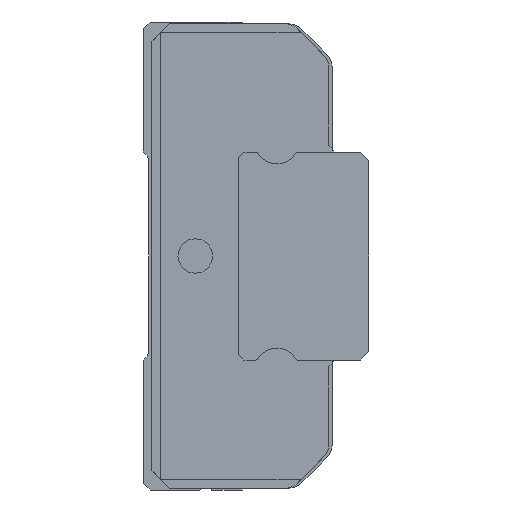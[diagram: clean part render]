
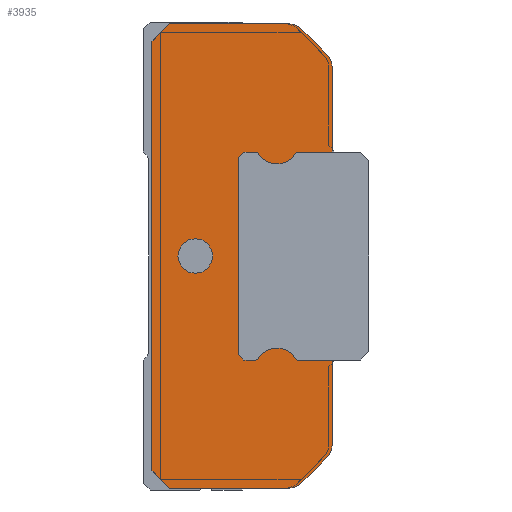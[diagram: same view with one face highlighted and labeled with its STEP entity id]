
A CAD part, left-side view. The second image highlights one B-rep face of the part: STEP entity #3935.
In plain terms, the highlighted planar face has unit normal (-1, 0, 0).
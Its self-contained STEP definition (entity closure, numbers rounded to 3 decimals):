
#223=CIRCLE('',#4396,1.);
#224=CIRCLE('',#4397,1.);
#225=CIRCLE('',#4398,1.);
#226=CIRCLE('',#4399,1.);
#227=CIRCLE('',#4400,1.);
#228=CIRCLE('',#4401,0.15);
#229=CIRCLE('',#4402,1.25);
#230=CIRCLE('',#4403,0.15);
#231=CIRCLE('',#4404,0.15);
#232=CIRCLE('',#4405,1.25);
#233=CIRCLE('',#4406,0.15);
#950=ORIENTED_EDGE('',*,*,#1687,.T.);
#951=ORIENTED_EDGE('',*,*,#1688,.T.);
#952=ORIENTED_EDGE('',*,*,#1651,.F.);
#953=ORIENTED_EDGE('',*,*,#1689,.F.);
#954=ORIENTED_EDGE('',*,*,#1690,.F.);
#955=ORIENTED_EDGE('',*,*,#1691,.F.);
#956=ORIENTED_EDGE('',*,*,#1565,.F.);
#957=ORIENTED_EDGE('',*,*,#1582,.F.);
#958=ORIENTED_EDGE('',*,*,#1640,.F.);
#959=ORIENTED_EDGE('',*,*,#1630,.F.);
#960=ORIENTED_EDGE('',*,*,#1638,.F.);
#961=ORIENTED_EDGE('',*,*,#1692,.F.);
#962=ORIENTED_EDGE('',*,*,#1693,.F.);
#963=ORIENTED_EDGE('',*,*,#1694,.F.);
#964=ORIENTED_EDGE('',*,*,#1653,.F.);
#965=ORIENTED_EDGE('',*,*,#1695,.T.);
#966=ORIENTED_EDGE('',*,*,#1696,.T.);
#967=ORIENTED_EDGE('',*,*,#1697,.F.);
#968=ORIENTED_EDGE('',*,*,#1698,.T.);
#969=ORIENTED_EDGE('',*,*,#1699,.T.);
#970=ORIENTED_EDGE('',*,*,#1700,.T.);
#971=ORIENTED_EDGE('',*,*,#1701,.T.);
#972=ORIENTED_EDGE('',*,*,#1702,.T.);
#973=ORIENTED_EDGE('',*,*,#1703,.T.);
#974=ORIENTED_EDGE('',*,*,#1704,.T.);
#975=ORIENTED_EDGE('',*,*,#1705,.F.);
#976=ORIENTED_EDGE('',*,*,#1706,.T.);
#1565=EDGE_CURVE('',#2035,#2036,#2255,.T.);
#1582=EDGE_CURVE('',#2047,#2035,#2270,.T.);
#1630=EDGE_CURVE('',#2087,#2088,#2316,.T.);
#1638=EDGE_CURVE('',#2092,#2087,#2324,.T.);
#1640=EDGE_CURVE('',#2088,#2047,#2326,.T.);
#1651=EDGE_CURVE('',#2097,#2094,#2337,.T.);
#1653=EDGE_CURVE('',#2098,#2100,#2339,.T.);
#1687=EDGE_CURVE('',#2130,#2130,#223,.T.);
#1688=EDGE_CURVE('',#2131,#2094,#2362,.T.);
#1689=EDGE_CURVE('',#2132,#2097,#224,.T.);
#1690=EDGE_CURVE('',#2133,#2132,#2363,.T.);
#1691=EDGE_CURVE('',#2036,#2133,#225,.T.);
#1692=EDGE_CURVE('',#2134,#2092,#226,.T.);
#1693=EDGE_CURVE('',#2135,#2134,#2364,.T.);
#1694=EDGE_CURVE('',#2100,#2135,#227,.T.);
#1695=EDGE_CURVE('',#2098,#2136,#2365,.T.);
#1696=EDGE_CURVE('',#2136,#2137,#228,.T.);
#1697=EDGE_CURVE('',#2138,#2137,#229,.T.);
#1698=EDGE_CURVE('',#2138,#2139,#230,.T.);
#1699=EDGE_CURVE('',#2139,#2140,#2366,.T.);
#1700=EDGE_CURVE('',#2140,#2141,#2367,.T.);
#1701=EDGE_CURVE('',#2141,#2142,#2368,.T.);
#1702=EDGE_CURVE('',#2142,#2143,#2369,.T.);
#1703=EDGE_CURVE('',#2143,#2144,#2370,.T.);
#1704=EDGE_CURVE('',#2144,#2145,#231,.T.);
#1705=EDGE_CURVE('',#2146,#2145,#232,.T.);
#1706=EDGE_CURVE('',#2146,#2131,#233,.T.);
#2035=VERTEX_POINT('',#6292);
#2036=VERTEX_POINT('',#6294);
#2047=VERTEX_POINT('',#6325);
#2087=VERTEX_POINT('',#6423);
#2088=VERTEX_POINT('',#6425);
#2092=VERTEX_POINT('',#6438);
#2094=VERTEX_POINT('',#6455);
#2097=VERTEX_POINT('',#6461);
#2098=VERTEX_POINT('',#6465);
#2100=VERTEX_POINT('',#6468);
#2130=VERTEX_POINT('',#6536);
#2131=VERTEX_POINT('',#6538);
#2132=VERTEX_POINT('',#6540);
#2133=VERTEX_POINT('',#6542);
#2134=VERTEX_POINT('',#6545);
#2135=VERTEX_POINT('',#6547);
#2136=VERTEX_POINT('',#6550);
#2137=VERTEX_POINT('',#6552);
#2138=VERTEX_POINT('',#6554);
#2139=VERTEX_POINT('',#6556);
#2140=VERTEX_POINT('',#6558);
#2141=VERTEX_POINT('',#6560);
#2142=VERTEX_POINT('',#6562);
#2143=VERTEX_POINT('',#6564);
#2144=VERTEX_POINT('',#6566);
#2145=VERTEX_POINT('',#6568);
#2146=VERTEX_POINT('',#6570);
#2255=LINE('',#6293,#2513);
#2270=LINE('',#6326,#2528);
#2316=LINE('',#6424,#2574);
#2324=LINE('',#6439,#2582);
#2326=LINE('',#6442,#2584);
#2337=LINE('',#6462,#2595);
#2339=LINE('',#6467,#2597);
#2362=LINE('',#6537,#2620);
#2363=LINE('',#6541,#2621);
#2364=LINE('',#6546,#2622);
#2365=LINE('',#6549,#2623);
#2366=LINE('',#6557,#2624);
#2367=LINE('',#6559,#2625);
#2368=LINE('',#6561,#2626);
#2369=LINE('',#6563,#2627);
#2370=LINE('',#6565,#2628);
#2513=VECTOR('',#5192,1000.);
#2528=VECTOR('',#5219,1000.);
#2574=VECTOR('',#5289,1000.);
#2582=VECTOR('',#5301,1000.);
#2584=VECTOR('',#5305,1000.);
#2595=VECTOR('',#5324,1000.);
#2597=VECTOR('',#5328,1000.);
#2620=VECTOR('',#5383,1000.);
#2621=VECTOR('',#5386,1000.);
#2622=VECTOR('',#5391,1000.);
#2623=VECTOR('',#5394,1000.);
#2624=VECTOR('',#5401,1000.);
#2625=VECTOR('',#5402,1000.);
#2626=VECTOR('',#5403,1000.);
#2627=VECTOR('',#5404,1000.);
#2628=VECTOR('',#5405,1000.);
#3091=EDGE_LOOP('',(#950));
#3092=EDGE_LOOP('',(#951,#952,#953,#954,#955,#956,#957,#958,#959,#960,#961,
#962,#963,#964,#965,#966,#967,#968,#969,#970,#971,#972,#973,#974,#975,#976));
#3547=FACE_BOUND('',#3091,.T.);
#3548=FACE_BOUND('',#3092,.T.);
#3716=PLANE('',#4395);
#3935=ADVANCED_FACE('',(#3547,#3548),#3716,.F.);
#4395=AXIS2_PLACEMENT_3D('',#6534,#5379,#5380);
#4396=AXIS2_PLACEMENT_3D('',#6535,#5381,#5382);
#4397=AXIS2_PLACEMENT_3D('',#6539,#5384,#5385);
#4398=AXIS2_PLACEMENT_3D('',#6543,#5387,#5388);
#4399=AXIS2_PLACEMENT_3D('',#6544,#5389,#5390);
#4400=AXIS2_PLACEMENT_3D('',#6548,#5392,#5393);
#4401=AXIS2_PLACEMENT_3D('',#6551,#5395,#5396);
#4402=AXIS2_PLACEMENT_3D('',#6553,#5397,#5398);
#4403=AXIS2_PLACEMENT_3D('',#6555,#5399,#5400);
#4404=AXIS2_PLACEMENT_3D('',#6567,#5406,#5407);
#4405=AXIS2_PLACEMENT_3D('',#6569,#5408,#5409);
#4406=AXIS2_PLACEMENT_3D('',#6571,#5410,#5411);
#5192=DIRECTION('',(0.,-1.,0.));
#5219=DIRECTION('',(0.,-0.707,0.707));
#5289=DIRECTION('',(0.,0.707,0.707));
#5301=DIRECTION('',(0.,1.,0.));
#5305=DIRECTION('',(0.,0.,1.));
#5324=DIRECTION('',(0.,0.,-1.));
#5328=DIRECTION('',(0.,0.,-1.));
#5379=DIRECTION('',(1.,0.,0.));
#5380=DIRECTION('',(0.,0.,-1.));
#5381=DIRECTION('',(1.,0.,0.));
#5382=DIRECTION('',(0.,0.,-1.));
#5383=DIRECTION('',(0.,-1.,0.));
#5384=DIRECTION('',(1.,0.,0.));
#5385=DIRECTION('',(0.,0.,-1.));
#5386=DIRECTION('',(0.,-0.707,-0.707));
#5387=DIRECTION('',(1.,0.,0.));
#5388=DIRECTION('',(0.,0.,-1.));
#5389=DIRECTION('',(1.,0.,0.));
#5390=DIRECTION('',(0.,0.,-1.));
#5391=DIRECTION('',(0.,0.707,-0.707));
#5392=DIRECTION('',(1.,0.,0.));
#5393=DIRECTION('',(0.,0.,-1.));
#5394=DIRECTION('',(0.,1.,0.));
#5395=DIRECTION('',(1.,0.,0.));
#5396=DIRECTION('',(0.,0.,-1.));
#5397=DIRECTION('',(1.,0.,0.));
#5398=DIRECTION('',(0.,0.,-1.));
#5399=DIRECTION('',(1.,0.,0.));
#5400=DIRECTION('',(0.,0.,-1.));
#5401=DIRECTION('',(0.,1.,0.));
#5402=DIRECTION('',(0.,0.707,0.707));
#5403=DIRECTION('',(0.,0.,1.));
#5404=DIRECTION('',(0.,-0.707,0.707));
#5405=DIRECTION('',(0.,-1.,0.));
#5406=DIRECTION('',(1.,0.,0.));
#5407=DIRECTION('',(0.,0.,-1.));
#5408=DIRECTION('',(1.,0.,0.));
#5409=DIRECTION('',(0.,0.,-1.));
#5410=DIRECTION('',(1.,0.,0.));
#5411=DIRECTION('',(0.,0.,-1.));
#6292=CARTESIAN_POINT('',(-12.5,9.5,13.4));
#6293=CARTESIAN_POINT('',(-12.5,9.5,13.4));
#6294=CARTESIAN_POINT('',(-12.5,2.614,13.4));
#6325=CARTESIAN_POINT('',(-12.5,10.5,12.4));
#6326=CARTESIAN_POINT('',(-12.5,10.5,12.4));
#6423=CARTESIAN_POINT('',(-12.5,9.5,-13.4));
#6424=CARTESIAN_POINT('',(-12.5,9.5,-13.4));
#6425=CARTESIAN_POINT('',(-12.5,10.5,-12.4));
#6438=CARTESIAN_POINT('',(-12.5,2.614,-13.4));
#6439=CARTESIAN_POINT('',(-12.5,2.614,-13.4));
#6442=CARTESIAN_POINT('',(-12.5,10.5,-12.4));
#6455=CARTESIAN_POINT('',(-12.5,0.1,6.));
#6461=CARTESIAN_POINT('',(-12.5,0.1,10.886));
#6462=CARTESIAN_POINT('',(-12.5,0.1,10.886));
#6465=CARTESIAN_POINT('',(-12.5,0.1,-6.));
#6467=CARTESIAN_POINT('',(-12.5,0.1,10.886));
#6468=CARTESIAN_POINT('',(-12.5,0.1,-10.886));
#6534=CARTESIAN_POINT('',(-12.5,2.614,12.4));
#6535=CARTESIAN_POINT('',(-12.5,8.,0.));
#6536=CARTESIAN_POINT('',(-12.5,8.,-1.));
#6537=CARTESIAN_POINT('',(-12.5,2.088,6.));
#6538=CARTESIAN_POINT('',(-12.5,2.088,6.));
#6539=CARTESIAN_POINT('',(-12.5,1.1,10.886));
#6540=CARTESIAN_POINT('',(-12.5,0.393,11.593));
#6541=CARTESIAN_POINT('',(-12.5,1.907,13.107));
#6542=CARTESIAN_POINT('',(-12.5,1.907,13.107));
#6543=CARTESIAN_POINT('',(-12.5,2.614,12.4));
#6544=CARTESIAN_POINT('',(-12.5,2.614,-12.4));
#6545=CARTESIAN_POINT('',(-12.5,1.907,-13.107));
#6546=CARTESIAN_POINT('',(-12.5,0.393,-11.593));
#6547=CARTESIAN_POINT('',(-12.5,0.393,-11.593));
#6548=CARTESIAN_POINT('',(-12.5,1.1,-10.886));
#6549=CARTESIAN_POINT('',(-12.5,-1.5,-6.));
#6550=CARTESIAN_POINT('',(-12.5,2.088,-6.));
#6551=CARTESIAN_POINT('',(-12.5,2.088,-5.85));
#6552=CARTESIAN_POINT('',(-12.5,2.217,-5.925));
#6553=CARTESIAN_POINT('',(-12.5,3.3,-6.55));
#6554=CARTESIAN_POINT('',(-12.5,4.383,-5.925));
#6555=CARTESIAN_POINT('',(-12.5,4.512,-5.85));
#6556=CARTESIAN_POINT('',(-12.5,4.512,-6.));
#6557=CARTESIAN_POINT('',(-12.5,4.512,-6.));
#6558=CARTESIAN_POINT('',(-12.5,5.2,-6.));
#6559=CARTESIAN_POINT('',(-12.5,5.2,-6.));
#6560=CARTESIAN_POINT('',(-12.5,5.5,-5.7));
#6561=CARTESIAN_POINT('',(-12.5,5.5,-5.7));
#6562=CARTESIAN_POINT('',(-12.5,5.5,5.7));
#6563=CARTESIAN_POINT('',(-12.5,5.5,5.7));
#6564=CARTESIAN_POINT('',(-12.5,5.2,6.));
#6565=CARTESIAN_POINT('',(-12.5,5.2,6.));
#6566=CARTESIAN_POINT('',(-12.5,4.512,6.));
#6567=CARTESIAN_POINT('',(-12.5,4.512,5.85));
#6568=CARTESIAN_POINT('',(-12.5,4.383,5.925));
#6569=CARTESIAN_POINT('',(-12.5,3.3,6.55));
#6570=CARTESIAN_POINT('',(-12.5,2.217,5.925));
#6571=CARTESIAN_POINT('',(-12.5,2.088,5.85));
